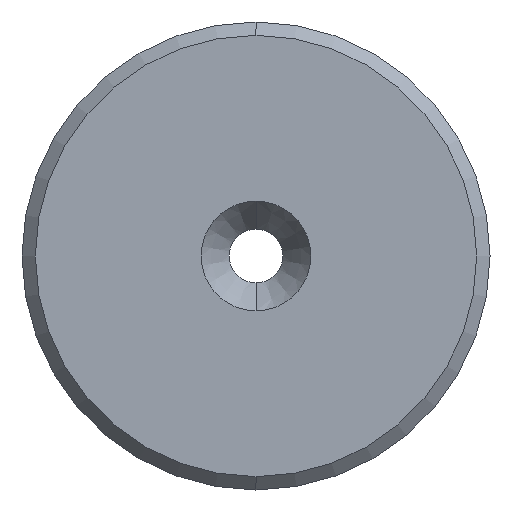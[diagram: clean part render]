
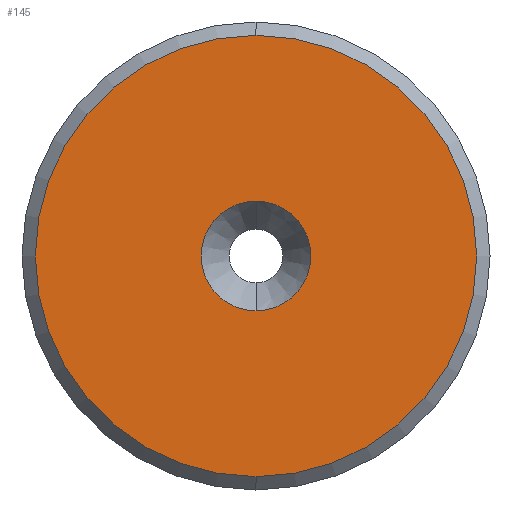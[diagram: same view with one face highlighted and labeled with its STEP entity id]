
A CAD part, left-side view. The second image highlights one B-rep face of the part: STEP entity #145.
In plain terms, the highlighted planar face has unit normal (-1, 0, 0).
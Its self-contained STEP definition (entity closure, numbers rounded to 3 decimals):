
#3 = DIRECTION ( 'NONE',  ( 0., 0., 1. ) ) ;
#32 = VERTEX_POINT ( 'NONE', #401 ) ;
#33 = FACE_BOUND ( 'NONE', #169, .T. ) ;
#38 = CARTESIAN_POINT ( 'NONE',  ( 0., 0., 0. ) ) ;
#39 = AXIS2_PLACEMENT_3D ( 'NONE', #372, #297, #62 ) ;
#53 = ORIENTED_EDGE ( 'NONE', *, *, #335, .T. ) ;
#56 = PLANE ( 'NONE',  #252 ) ;
#62 = DIRECTION ( 'NONE',  ( 0., 0., -1. ) ) ;
#75 = DIRECTION ( 'NONE',  ( 0., 0., 1. ) ) ;
#86 = EDGE_LOOP ( 'NONE', ( #184, #53 ) ) ;
#106 = CARTESIAN_POINT ( 'NONE',  ( 0., 0., 16.5 ) ) ;
#109 = ORIENTED_EDGE ( 'NONE', *, *, #336, .F. ) ;
#117 = CARTESIAN_POINT ( 'NONE',  ( 0., 0., 0. ) ) ;
#125 = ORIENTED_EDGE ( 'NONE', *, *, #365, .F. ) ;
#145 = ADVANCED_FACE ( 'NONE', ( #369, #33 ), #56, .F. ) ;
#151 = DIRECTION ( 'NONE',  ( 0., 0., -1. ) ) ;
#169 = EDGE_LOOP ( 'NONE', ( #109, #125 ) ) ;
#184 = ORIENTED_EDGE ( 'NONE', *, *, #235, .T. ) ;
#226 = DIRECTION ( 'NONE',  ( -1., 0., 0. ) ) ;
#228 = CIRCLE ( 'NONE', #39, 16.5 ) ;
#235 = EDGE_CURVE ( 'NONE', #379, #249, #228, .T. ) ;
#249 = VERTEX_POINT ( 'NONE', #106 ) ;
#252 = AXIS2_PLACEMENT_3D ( 'NONE', #366, #367, #356 ) ;
#265 = CARTESIAN_POINT ( 'NONE',  ( 0., 0., -16.5 ) ) ;
#267 = AXIS2_PLACEMENT_3D ( 'NONE', #117, #380, #151 ) ;
#270 = CIRCLE ( 'NONE', #267, 16.5 ) ;
#295 = AXIS2_PLACEMENT_3D ( 'NONE', #457, #226, #3 ) ;
#297 = DIRECTION ( 'NONE',  ( -1., 0., 0. ) ) ;
#307 = DIRECTION ( 'NONE',  ( -1., 0., 0. ) ) ;
#335 = EDGE_CURVE ( 'NONE', #249, #379, #270, .T. ) ;
#336 = EDGE_CURVE ( 'NONE', #32, #361, #386, .T. ) ;
#343 = CARTESIAN_POINT ( 'NONE',  ( 0., 0., -4.101 ) ) ;
#346 = AXIS2_PLACEMENT_3D ( 'NONE', #38, #307, #75 ) ;
#356 = DIRECTION ( 'NONE',  ( 0., 0., -1. ) ) ;
#359 = CIRCLE ( 'NONE', #346, 4.101 ) ;
#361 = VERTEX_POINT ( 'NONE', #343 ) ;
#365 = EDGE_CURVE ( 'NONE', #361, #32, #359, .T. ) ;
#366 = CARTESIAN_POINT ( 'NONE',  ( 0., 4.101, 0. ) ) ;
#367 = DIRECTION ( 'NONE',  ( 1., 0., 0. ) ) ;
#369 = FACE_OUTER_BOUND ( 'NONE', #86, .T. ) ;
#372 = CARTESIAN_POINT ( 'NONE',  ( 0., 0., 0. ) ) ;
#379 = VERTEX_POINT ( 'NONE', #265 ) ;
#380 = DIRECTION ( 'NONE',  ( -1., 0., 0. ) ) ;
#386 = CIRCLE ( 'NONE', #295, 4.101 ) ;
#401 = CARTESIAN_POINT ( 'NONE',  ( 0., 0., 4.101 ) ) ;
#457 = CARTESIAN_POINT ( 'NONE',  ( 0., 0., 0. ) ) ;
